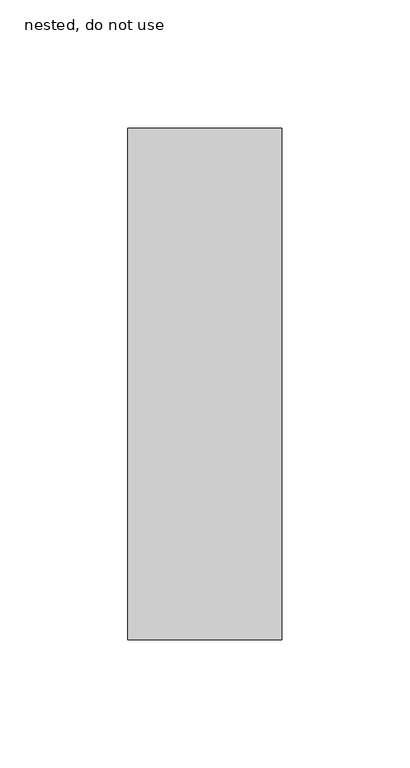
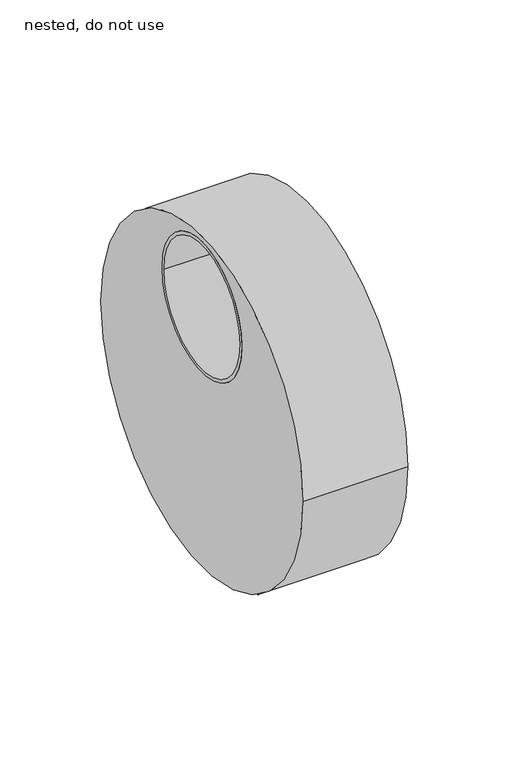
"""IFC4 building model written with IfcOpenShell, lengths in millimetres: pipe fitting geometry, NLRS_52_PIF_UN_Vacurain Flex verloop LV_SH_Dyka : nested, do not use."""

import ifcopenshell
import ifcopenshell.guid

model = None  # the IFC model being written
_history = None  # IfcOwnerHistory: only IFC2X3 demands one
_inside = {}  # id of a spatial element -> (the spatial element, [elements in it])
_under = {}  # id of a project, library or spatial element -> (it, [spatial elements below it])
_declared = {}  # id of a project -> (the project, [libraries it declares])
_typed = {}  # id of a type object -> (the type object, [elements of that type])
_made_of = {}  # id of a material, layer set ... -> (it, [elements and type objects made of it])


def new_model(schema):
    """Start an empty IFC model of exactly this schema.

    Asked for "IFC4X3", IfcOpenShell would pick the latest addendum, in which some entities
    have other attributes; the version numbers below select the first issue.
    IFC2X3 requires an IfcOwnerHistory on every rooted entity: one is made here for all.
    """
    global model, _history
    if schema == "IFC4X3":
        model = ifcopenshell.file(schema_version=(4, 3, 0, 0))
    else:
        model = ifcopenshell.file(schema=schema)
    _inside.clear()
    _under.clear()
    _declared.clear()
    _typed.clear()
    _made_of.clear()
    _history = None
    if model.schema == "IFC2X3":
        org = make("IfcOrganization", Name="unknown")
        user = make(
            "IfcPersonAndOrganization",
            ThePerson=make("IfcPerson", FamilyName="unknown"),
            TheOrganization=org,
        )
        app = make(
            "IfcApplication",
            ApplicationDeveloper=org,
            Version="unknown",
            ApplicationFullName="unknown",
            ApplicationIdentifier="unknown",
        )
        _history = make(
            "IfcOwnerHistory",
            OwningUser=user,
            OwningApplication=app,
            ChangeAction="ADDED",
            CreationDate=0,
        )
    return model


def make(cls, **values):
    """One entity of the class cls with the attributes given. An attribute that is None is left unset."""
    return model.create_entity(
        cls, **{name: value for name, value in values.items() if value is not None}
    )


def rooted(cls, **values):
    """An entity with a GlobalId (a new one), such as an element, a storey or a relation."""
    return make(cls, GlobalId=ifcopenshell.guid.new(), OwnerHistory=_history, **values)


def si_unit(unit_type, name, prefix=None):
    """IfcSIUnit, for example si_unit("LENGTHUNIT", "METRE", prefix="MILLI")."""
    return make("IfcSIUnit", UnitType=unit_type, Prefix=prefix, Name=name)


def assignment(units):
    """IfcUnitAssignment: the units of a project."""
    return None if units is None else make("IfcUnitAssignment", Units=units)


def point(xyz):
    """IfcCartesianPoint."""
    return None if xyz is None else make("IfcCartesianPoint", Coordinates=xyz)


def direction(xyz):
    """IfcDirection."""
    return None if xyz is None else make("IfcDirection", DirectionRatios=xyz)


def frame(location, z_axis=None, x_axis=None):
    """IfcAxis2Placement3D, a coordinate frame: its origin and axes. An axis left out is left unset."""
    return make(
        "IfcAxis2Placement3D",
        Location=point(location),
        Axis=direction(z_axis),
        RefDirection=direction(x_axis),
    )


def frame_2d(location, x_axis=None):
    """IfcAxis2Placement2D, a coordinate frame in the plane: its origin and x axis."""
    return make(
        "IfcAxis2Placement2D", Location=point(location), RefDirection=direction(x_axis)
    )


def origin():
    """The frame at (0, 0, 0) with its axes left unset."""
    return frame((0.0, 0.0, 0.0))


def place(relative_to, where):
    """IfcLocalPlacement: puts the frame where relative to a parent placement (None: the world)."""
    return make(
        "IfcLocalPlacement", PlacementRelTo=relative_to, RelativePlacement=where
    )


def context(
    kind, dimensions, precision=None, world=None, true_north=None, identifier=None
):
    """IfcGeometricRepresentationContext, for example the 3D "Model" context."""
    return make(
        "IfcGeometricRepresentationContext",
        ContextIdentifier=identifier,
        ContextType=kind,
        CoordinateSpaceDimension=dimensions,
        Precision=precision,
        WorldCoordinateSystem=world,
        TrueNorth=true_north,
    )


def project(units=None, contexts=None):
    """IfcProject with its units and contexts."""
    return rooted(
        "IfcProject",
        Name="project",
        RepresentationContexts=contexts,
        UnitsInContext=assignment(units),
    )


def spatial(cls, under=None, at=None, **own):
    """A site, building, storey or space (cls), placed at a placement, below another one or the project."""
    s = rooted(cls, ObjectPlacement=at, **own)
    if under is not None:
        _under.setdefault(under.id(), (under, []))[1].append(s)
    return s


def polyline(points):
    """IfcPolyline through the points."""
    return make("IfcPolyline", Points=[point(p) for p in points])


def circle_curve(where, radius):
    """IfcCircle in the frame where."""
    return make("IfcCircle", Position=where, Radius=radius)


def trimmed(basis, trim1, trim2, sense, master):
    """IfcTrimmedCurve: the piece of a basis curve between two trims."""
    return make(
        "IfcTrimmedCurve",
        BasisCurve=basis,
        Trim1=trim1,
        Trim2=trim2,
        SenseAgreement=sense,
        MasterRepresentation=master,
    )


def segment(curve, same_sense, transition):
    """IfcCompositeCurveSegment."""
    return make(
        "IfcCompositeCurveSegment",
        Transition=transition,
        SameSense=same_sense,
        ParentCurve=curve,
    )


def composite_curve(segments, self_intersect=None):
    """IfcCompositeCurve: segments joined end to end."""
    return make("IfcCompositeCurve", Segments=segments, SelfIntersect=self_intersect)


def outline(outer, holes=None, kind="AREA"):
    """IfcArbitraryClosedProfileDef: a profile drawn as a closed curve; with holes, ...WithVoids."""
    if holes is None:
        return make("IfcArbitraryClosedProfileDef", ProfileType=kind, OuterCurve=outer)
    return make(
        "IfcArbitraryProfileDefWithVoids",
        ProfileType=kind,
        OuterCurve=outer,
        InnerCurves=holes,
    )


def extrude(swept, where, along, depth):
    """IfcExtrudedAreaSolid: the profile swept, set in the frame where, extruded along a direction by depth."""
    return make(
        "IfcExtrudedAreaSolid",
        SweptArea=swept,
        Position=where,
        ExtrudedDirection=direction(along),
        Depth=depth,
    )


def shape(context_of_items, identifier, shape_type, items):
    """IfcShapeRepresentation: the items that make up one representation, for example the "Body"."""
    return make(
        "IfcShapeRepresentation",
        ContextOfItems=context_of_items,
        RepresentationIdentifier=identifier,
        RepresentationType=shape_type,
        Items=items,
    )


def source(mapping_origin, context_of_items, identifier, shape_type, items):
    """IfcRepresentationMap: a shape defined once, which mapped items show again and again."""
    return make(
        "IfcRepresentationMap",
        MappingOrigin=mapping_origin,
        MappedRepresentation=shape(context_of_items, identifier, shape_type, items),
    )


def transform(
    local_origin,
    x_axis=None,
    y_axis=None,
    z_axis=None,
    scale=None,
    scale2=None,
    scale3=None,
    uniform=True,
):
    """IfcCartesianTransformationOperator3D, or its non-uniform kind. x_axis, y_axis, z_axis: its Axis1, 2, 3."""
    if uniform:
        return make(
            "IfcCartesianTransformationOperator3D",
            Axis1=direction(x_axis),
            Axis2=direction(y_axis),
            LocalOrigin=point(local_origin),
            Scale=scale,
            Axis3=direction(z_axis),
        )
    return make(
        "IfcCartesianTransformationOperator3DnonUniform",
        Axis1=direction(x_axis),
        Axis2=direction(y_axis),
        LocalOrigin=point(local_origin),
        Scale=scale,
        Axis3=direction(z_axis),
        Scale2=scale2,
        Scale3=scale3,
    )


def mapped(mapping_source, mapping_target):
    """IfcMappedItem: shows the shape of a source again, moved by a transform."""
    return make(
        "IfcMappedItem", MappingSource=mapping_source, MappingTarget=mapping_target
    )


def made_of(thing, what):
    """Note that an element or type object is made of a material, layer set ...; save() writes the relation."""
    if what is not None:
        _made_of.setdefault(what.id(), (what, []))[1].append(thing)
    return thing


def element(
    cls,
    number,
    at=None,
    inside=None,
    cuts=None,
    type_object=None,
    material=None,
    context=None,
    identifier="Body",
    shape_type=None,
    held_by="IfcProductDefinitionShape",
    body=None,
    shapes=None,
    **own,
):
    """One element of the class cls, such as IfcWall. Its Tag is "e" and its number.

    at: its placement. inside: the storey or other place that contains it. cuts: it is an
    opening in that element (IfcRelVoidsElement). A single representation is given by context,
    identifier, shape_type and body (its items); several are given by shapes. held_by: the class
    of the entity that holds the representations. save() writes the other relations.
    """
    e = rooted(cls, Tag="e%d" % number, ObjectPlacement=at, **own)
    if body is not None:
        shapes = [shape(context, identifier, shape_type, body)]
    if shapes is not None:
        e.Representation = make(held_by, Representations=shapes)
    if inside is not None:
        _inside.setdefault(inside.id(), (inside, []))[1].append(e)
    if cuts is not None:
        rooted(
            "IfcRelVoidsElement", RelatingBuildingElement=cuts, RelatedOpeningElement=e
        )
    if type_object is not None:
        _typed.setdefault(type_object.id(), (type_object, []))[1].append(e)
    return made_of(e, material)


def aggregate(whole, parts):
    """IfcRelAggregates: a whole, such as a stair, and the parts it consists of."""
    return rooted("IfcRelAggregates", RelatingObject=whole, RelatedObjects=parts)


def save(model, path):
    """Write the relations noted so far, then the file.

    IfcRelAggregates (storeys below a building ...), IfcRelContainedInSpatialStructure (elements
    in a storey), IfcRelDefinesByType, IfcRelAssociatesMaterial and IfcRelDeclares: one each for
    every whole, place, type object, material and project.
    """
    for whole, parts in _under.values():
        aggregate(whole, parts)
    for where, things in _inside.values():
        rooted(
            "IfcRelContainedInSpatialStructure",
            RelatedElements=things,
            RelatingStructure=where,
        )
    for kind, things in _typed.values():
        rooted("IfcRelDefinesByType", RelatedObjects=things, RelatingType=kind)
    for what, things in _made_of.values():
        rooted("IfcRelAssociatesMaterial", RelatedObjects=things, RelatingMaterial=what)
    for by, libraries in _declared.values():
        rooted("IfcRelDeclares", RelatingContext=by, RelatedDefinitions=libraries)
    model.write(path)


def plane_surface(at):
    """IfcPlane: the flat surface through the origin of the frame at, square to its z axis."""
    return make("IfcPlane", Position=at)


def cylinder_surface(at, radius):
    """IfcCylindricalSurface: all points at the distance radius from the z axis of the frame at."""
    return make("IfcCylindricalSurface", Position=at, Radius=radius)


def revolved_surface(curve, axis_point, axis_direction):
    """IfcSurfaceOfRevolution: the curve turned about the line through axis_point along axis_direction."""
    return make(
        "IfcSurfaceOfRevolution",
        SweptCurve=make("IfcArbitraryOpenProfileDef", ProfileType="CURVE", Curve=curve),
        AxisPosition=make("IfcAxis1Placement", Location=point(axis_point), Axis=direction(axis_direction)),
    )


def advanced_brep(points, edges, surfaces, faces):
    """IfcAdvancedBrep: a solid bounded by faces that lie on surfaces and meet in shared edges.

    An edge is (start, end): straight between two places in points (the first is 0);
    or (start, end, curve); or (start, end, curve, False) where it runs against its curve.
    A face is (place in surfaces, loops), or (place, loops, False) where it looks against
    its surface's normal. A loop lists edges by number (the first is 1), with a minus sign
    where the edge is run from its end to its start. The first loop is the outer one.
    """
    corners = [point(p) for p in points]
    vertices = [make("IfcVertexPoint", VertexGeometry=c) for c in corners]
    made = []
    for start, end, *more in edges:
        made.append(
            make(
                "IfcEdgeCurve",
                EdgeStart=vertices[start],
                EdgeEnd=vertices[end],
                EdgeGeometry=more[0] if more else make("IfcPolyline", Points=[corners[start], corners[end]]),
                SameSense=more[1] if len(more) > 1 else True,
            )
        )
    hull = []
    for where, loops, *sense in faces:
        bounds = []
        for j, loop in enumerate(loops):
            ring = [make("IfcOrientedEdge", EdgeElement=made[abs(k) - 1], Orientation=k > 0) for k in loop]
            bounds.append(
                make(
                    "IfcFaceOuterBound" if j == 0 else "IfcFaceBound",
                    Bound=make("IfcEdgeLoop", EdgeList=ring),
                    Orientation=True,
                )
            )
        hull.append(make("IfcAdvancedFace", Bounds=bounds, FaceSurface=surfaces[where], SameSense=sense[0] if sense else True))
    return make("IfcAdvancedBrep", Outer=make("IfcClosedShell", CfsFaces=hull))


def nested_do_not_use_eb73af9f(model_context):
    return source(origin(), model_context, "Body", "SolidModel", [
        extrude(outline(composite_curve([segment(trimmed(circle_curve(frame_2d((0.0, 57.0)), 39.5), [point((-39.5, 57.0))], [point((39.5, 57.0))], False, "CARTESIAN"), True, "CONTINUOUS"), segment(trimmed(circle_curve(frame_2d((0.0, 57.0)), 39.5), [point((39.5, 57.0))], [point((-39.5, 57.0))], False, "CARTESIAN"), True, "CONTINUOUS")], self_intersect=False), holes=[composite_curve([segment(trimmed(circle_curve(frame_2d((0.0, 57.0)), 37.5), [point((-37.5, 57.0))], [point((37.5, 57.0))], True, "CARTESIAN"), True, "CONTINUOUS"), segment(trimmed(circle_curve(frame_2d((0.0, 57.0)), 37.5), [point((37.5, 57.0))], [point((-37.5, 57.0))], True, "CARTESIAN"), True, "CONTINUOUS")], self_intersect=False)]), frame((-45.0, 0.0, 0.0), z_axis=(1.0, 0.0, 0.0), x_axis=(0.0, 1.0, 0.0)), (0.0, 0.0, 1.0), 44.0),
        advanced_brep(
        [(-45.0, -100.0, 0.0), (-45.0, 100.0, 0.0), (-45.0, -37.5, 57.0), (-45.0, 37.5, 57.0), (15.0, -100.0, 0.0), (15.0, 100.0, 0.0), (-1.0, -37.5, 57.0), (-1.0, 37.5, 57.0)],
        [
            (0, 1, circle_curve(frame((-45.0, 0.0, 0.0), z_axis=(-1.0, 0.0, 0.0), x_axis=(0.0, 1.0, 0.0)), 100.0)),
            (1, 0, circle_curve(frame((-45.0, 0.0, 0.0), z_axis=(-1.0, 0.0, 0.0), x_axis=(0.0, 1.0, 0.0)), 100.0)),
            (2, 3, circle_curve(frame((-45.0, 0.0, 57.0), z_axis=(1.0, 0.0, 0.0), x_axis=(0.0, 1.0, 0.0)), 37.5)),
            (3, 2, circle_curve(frame((-45.0, 0.0, 57.0), z_axis=(1.0, 0.0, 0.0), x_axis=(0.0, 1.0, 0.0)), 37.5)),
            (4, 5, circle_curve(frame((15.0, 0.0, 0.0), z_axis=(1.0, 0.0, 0.0), x_axis=(0.0, 1.0, 0.0)), 100.0)),
            (5, 4, circle_curve(frame((15.0, 0.0, 0.0), z_axis=(1.0, 0.0, 0.0), x_axis=(0.0, 1.0, 0.0)), 100.0)),
            (1, 5),
            (4, 0),
            (6, 7, circle_curve(frame((-1.0, 0.0, 57.0), z_axis=(-1.0, 0.0, 0.0), x_axis=(0.0, 1.0, 0.0)), 37.5)),
            (7, 6, circle_curve(frame((-1.0, 0.0, 57.0), z_axis=(-1.0, 0.0, 0.0), x_axis=(0.0, 1.0, 0.0)), 37.5)),
            (7, 3),
            (2, 6),
        ],
        [
            plane_surface(frame((-45.0, 100.0, 0.0), z_axis=(-1.0, 0.0, 0.0), x_axis=(0.0, 0.0, -1.0))),
            plane_surface(frame((15.0, 100.0, 0.0), z_axis=(1.0, 0.0, 0.0), x_axis=(0.0, 0.0, 1.0))),
            cylinder_surface(frame((-45.0, 0.0, 0.0), z_axis=(1.0, 0.0, 0.0), x_axis=(0.0, 1.0, 0.0)), 100.0),
            plane_surface(frame((-1.0, 37.5, 57.0), z_axis=(-1.0, 0.0, 0.0), x_axis=(0.0, 0.0, 1.0))),
            revolved_surface(polyline([(-1.0, 37.5, 57.0), (-45.0, 37.5, 57.0)]), (-45.0, 0.0, 57.0), (1.0, 0.0, 0.0)),
        ],
        [
            (0, [[1, 2], [3, 4]]),
            (1, [[5, 6]]),
            (2, [[-2, 7, -5, 8]]),
            (2, [[-1, -8, -6, -7]]),
            (3, [[9, 10]]),
            (4, [[-10, 11, -3, 12]]),
            (4, [[-9, -12, -4, -11]]),
        ],
    ),
    ])


if __name__ == "__main__":
    model = new_model("IFC4")
    model_context = context("Model", 3, world=origin())
    ifc_project = project(units=[si_unit("LENGTHUNIT", "METRE", prefix="MILLI")], contexts=[model_context])
    site = spatial("IfcSite", under=ifc_project)
    building = spatial("IfcBuilding", under=site)
    placement = place(None, origin())
    nested_do_not_use_shape = nested_do_not_use_eb73af9f(model_context)
    element("IfcPipeFitting", 1, ObjectType="NLRS_52_PIF_UN_Vacurain Flex verloop LV_SH_Dyka : nested, do not use", at=placement, inside=building, context=model_context, shape_type="MappedRepresentation", body=[
        mapped(nested_do_not_use_shape, transform((0.0, 0.0, 0.0), x_axis=(1.0, 0.0, 0.0), y_axis=(0.0, 1.0, 0.0), z_axis=(0.0, 0.0, 1.0))),
    ])
    save(model, "model.ifc")
